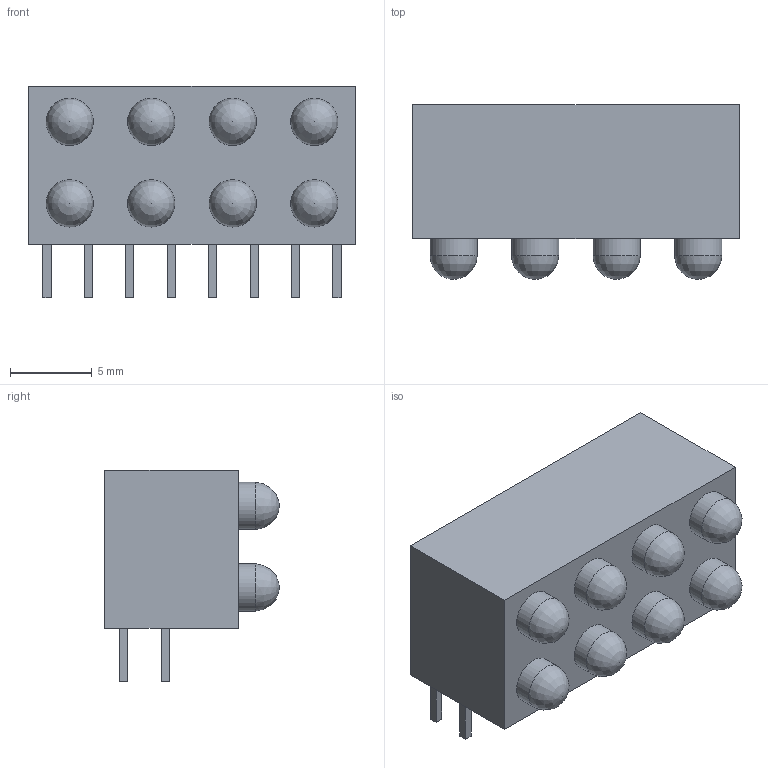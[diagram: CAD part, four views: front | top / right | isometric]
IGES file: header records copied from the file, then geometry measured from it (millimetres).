
Start section: Data from Parasolid IGES Translator 25.1.153, Copyright(c) 2006 Siemens PLM Software. All Rights Reserved.
Global section: file name: 6323773d039fe424ce131e3f.iges; native system: By Siemens PLM Incorporated; preprocessor: XPlus GENERIC/IGES 25.1.153; author: Noname; organization: Noname; date: 20220915.190429; units: metre
Bounding box: 20 x 10.7 x 13 mm (x, y, z)
Surface area: 1223.8 mm2 (no closed solid volume)
Topology: 0 solids, 0 shells, 183 faces, 786 edges, 762 vertices
Faces by surface type: extrusion 167, revolution 16
